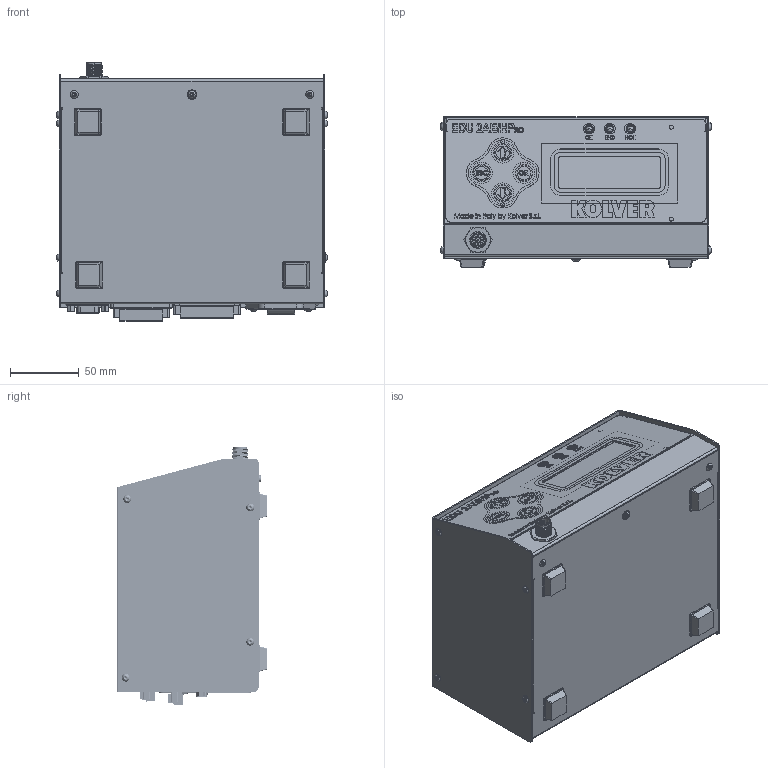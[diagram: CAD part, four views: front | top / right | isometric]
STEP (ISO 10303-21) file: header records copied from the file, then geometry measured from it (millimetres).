
FILE_DESCRIPTION (( 'STEP AP214' ), '1' );
FILE_NAME ('EDU 2AE_HP_PRO Switching.STEP', '2016-11-25T08:36:18', ( '' ), ( '' ), 'SwSTEP 2.0', 'SolidWorks 2016', '' );
FILE_SCHEMA (( 'AUTOMOTIVE_DESIGN' ));
Length unit declared in the file: millimetre
Products named in the file (1): EDU 2AE_HP_PRO Switching
Bounding box: 197.31 x 109.89 x 189 mm (x, y, z)
Volume: 304726.5 mm3; surface area: 362991.5 mm2
Topology: 59 solids, 59 shells, 5633 faces, 14440 edges, 9258 vertices
Faces by surface type: plane 3064, cylinder 1729, bspline 569, cone 172, torus 68, sphere 31
Entity records: 266434 total; most frequent: CARTESIAN_POINT 69960, ORIENTED_EDGE 28520, DIRECTION 26508, EDGE_CURVE 14260, VERTEX_POINT 9252, AXIS2_PLACEMENT_3D 8963, VECTOR 8582, LINE 8582
